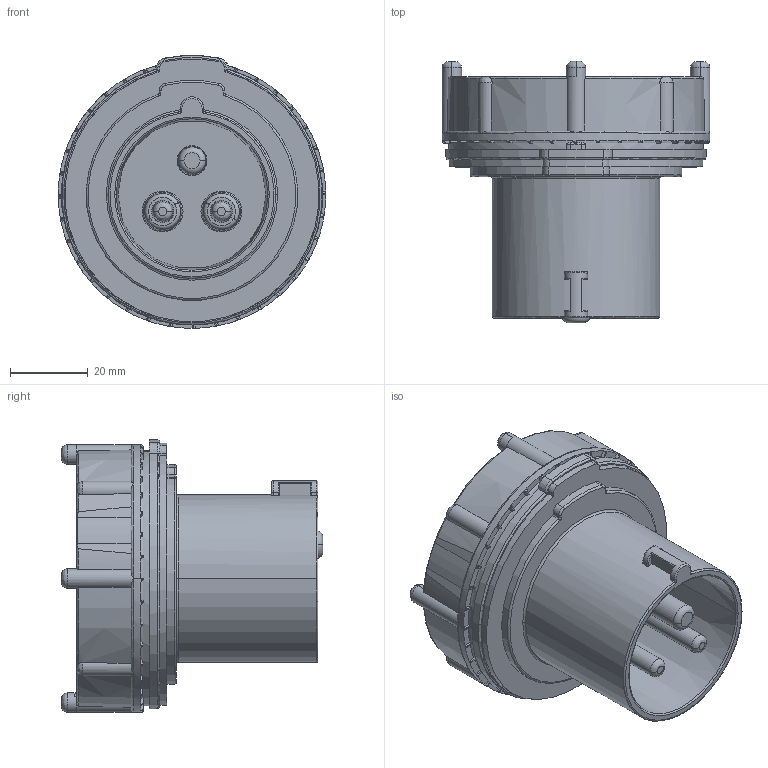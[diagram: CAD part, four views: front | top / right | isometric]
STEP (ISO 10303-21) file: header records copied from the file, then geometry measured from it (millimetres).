
FILE_DESCRIPTION((''),'2;1');
FILE_NAME('924_SW0001','2018-04-09T',('gisse'),('MENNEKES'),'PRO/ENGINEER BY PARAMETRIC TECHNOLOGY CORPORATION, 2015440','PRO/ENGINEER BY PARAMETRIC TECHNOLOGY CORPORATION, 2015440','');
FILE_SCHEMA(('AUTOMOTIVE_DESIGN { 1 0 10303 214 1 1 1 1 }'));
Length unit declared in the file: millimetre
Products named in the file (1): 924_SW0001
Bounding box: 69 x 67.4 x 70.32 mm (x, y, z)
Volume: 87783.6 mm3; surface area: 27825.9 mm2
Topology: 1 solids, 1 shells, 420 faces, 1121 edges, 720 vertices
Faces by surface type: plane 201, torus 93, cylinder 78, cone 32, bspline 16
Entity records: 18884 total; most frequent: CARTESIAN_POINT 3811, DIRECTION 2271, ORIENTED_EDGE 2242, EDGE_CURVE 1121, AXIS2_PLACEMENT_3D 950, VERTEX_POINT 720, FILL_AREA_STYLE_COLOUR 671, FILL_AREA_STYLE 671
